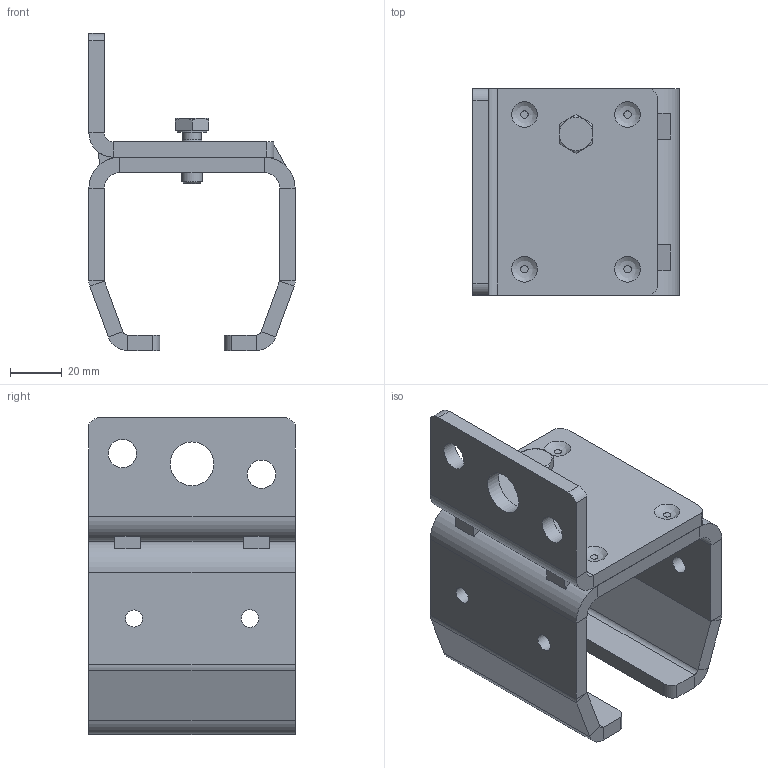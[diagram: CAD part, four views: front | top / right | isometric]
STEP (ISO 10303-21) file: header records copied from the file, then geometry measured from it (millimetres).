
FILE_DESCRIPTION(/* description */ ('Wandbefestigung Nr.3'),/* implementation_level */ '2;1');
FILE_NAME(/* name */ 'Q:\sge-ma\Produktmanagement-STB\STB\Workspace\stp\010333010.stp',/* time_stamp */ '2015-03-10T12:38:22+01:00',/* author */ ('avschreier'),/* organization */ (''),/* preprocessor_version */ 'ST-DEVELOPER v15.6',/* originating_system */ 'Autodesk Inventor 2015',/* authorisation */ '');
FILE_SCHEMA (('CONFIG_CONTROL_DESIGN'));
Length unit declared in the file: millimetre
Products named in the file (5): 010333010_Schweißnähte; 337000242; 335140030; DIN_EN_ISO_4017-M8x20_en; 010333010
Bounding box: 80 x 80 x 123 mm (x, y, z)
Volume: 164766.1 mm3; surface area: 63995.5 mm2
Topology: 7 solids, 7 shells, 145 faces, 309 edges, 188 vertices
Faces by surface type: plane 88, cylinder 41, bspline 8, cone 8
Full cylindrical faces by diameter (mm): 6.647 x3, 6.8 x3, 7.323 x1, 8 x1, 11 x2, 11.4 x1, 12 x1, 17 x1
Entity records: 4065 total; most frequent: CARTESIAN_POINT 878, DIRECTION 676, ORIENTED_EDGE 582, EDGE_CURVE 291, AXIS2_PLACEMENT_3D 259, EDGE_LOOP 190, VERTEX_POINT 185, LINE 158
